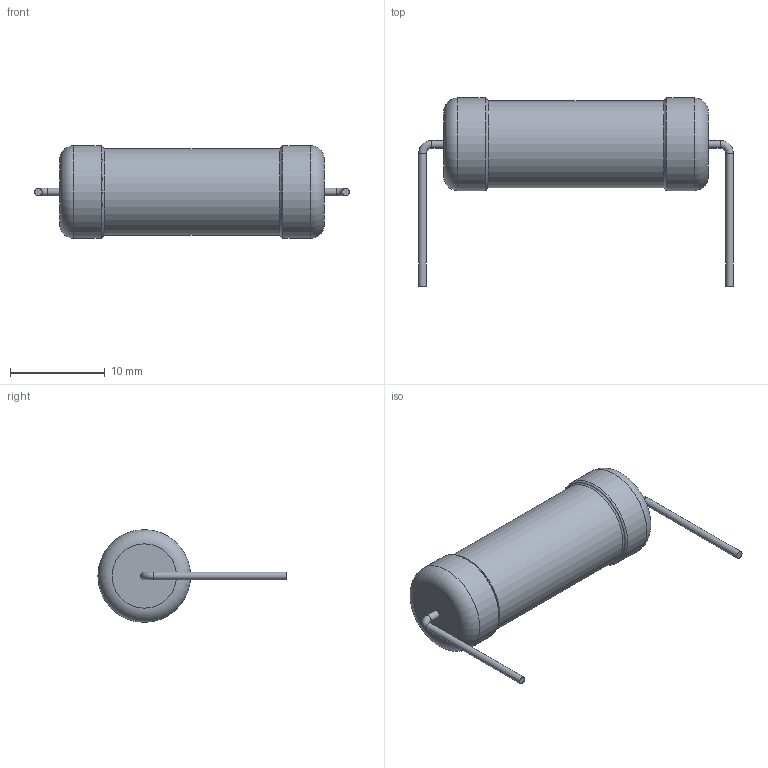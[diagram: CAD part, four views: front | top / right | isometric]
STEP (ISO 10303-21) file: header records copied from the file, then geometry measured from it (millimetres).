
FILE_DESCRIPTION(('STEP AP203'), '1');
FILE_NAME('Ñ2-29Â-2(2)', '', ('UNSPECIFIED'), ('UNSPECIFIED'), 'ASCON STEP Converter 1.6', 'ASCON Math Kernel', '');
FILE_SCHEMA(('CONFIG_CONTROL_DESIGN'));
Length unit declared in the file: millimetre
Bounding box: 33.3 x 19.9 x 9.8 mm (x, y, z)
Volume: 1926 mm3; surface area: 1027.8 mm2
Topology: 1 solids, 1 shells, 19 faces, 33 edges, 18 vertices
Faces by surface type: torus 8, cylinder 7, plane 4
Full cylindrical faces by diameter (mm): 0.8 x4, 9.176 x1, 9.8 x2
Entity records: 570 total; most frequent: DIRECTION 76, CARTESIAN_POINT 56, AXIS2_PLACEMENT_3D 38, EDGE_LOOP 36, ORIENTED_EDGE 36, FACE_OUTER_BOUND 30, COLOUR_RGB 20, FILL_AREA_STYLE_COLOUR 20
